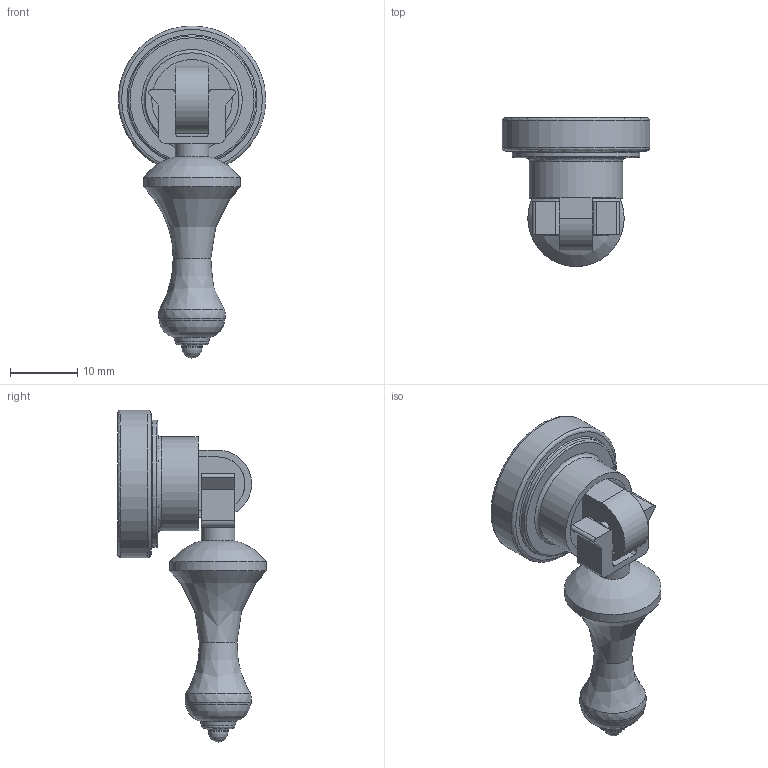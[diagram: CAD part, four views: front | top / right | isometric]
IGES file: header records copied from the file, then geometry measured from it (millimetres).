
Start section: Data from Parasolid IGES Translator 15.0.47, Copyright(c) 2006 Siemens P LM Software. All Rights Reserved.
Global section: file name: 9113435.igs; native system:  By UGS Corp.; preprocessor: XPlus GENERIC/IGES 3.0; author: Noname; organization: Noname; date: 20140122.100416; units: millimetre
Bounding box: 22 x 22.19 x 49.5 mm (x, y, z)
Surface area: 3149.2 mm2 (no closed solid volume)
Topology: 0 solids, 0 shells, 70 faces, 343 edges, 307 vertices
Faces by surface type: revolution 36, extrusion 34
